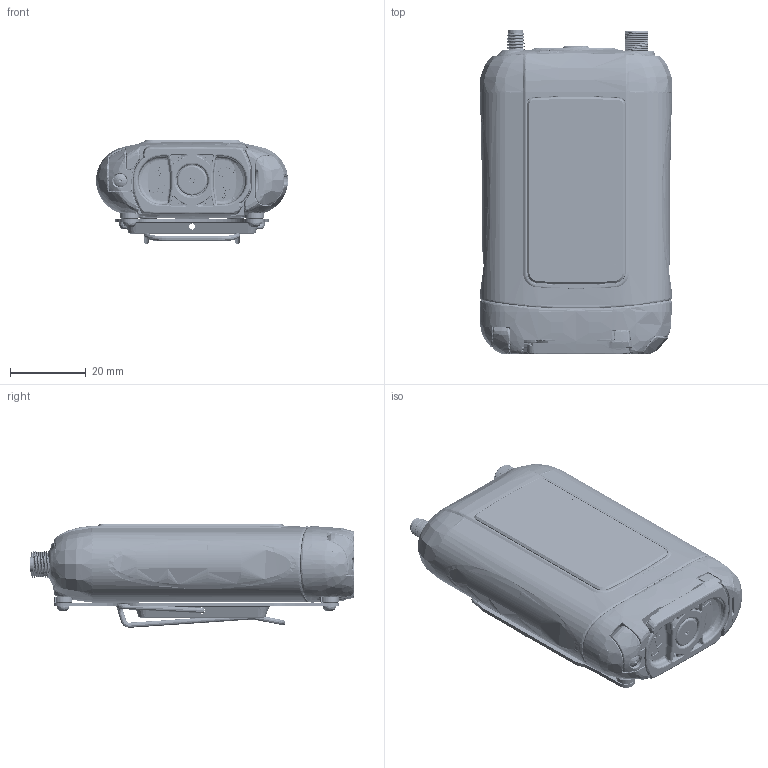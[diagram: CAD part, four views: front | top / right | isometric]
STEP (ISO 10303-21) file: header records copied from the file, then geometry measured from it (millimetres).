
FILE_DESCRIPTION(/* description */ ('A20-Mini-II - Assy'),/* implementation_level */ '2;1');
FILE_NAME(/* name */ 'Astral_MiniPlus_Shareable_3D.stp',/* time_stamp */ '2026-10-01T09:03:16-05:00',/* author */ ('jason'),/* organization */ (''),/* preprocessor_version */ 'ST-DEVELOPER v20.1',/* originating_system */ 'Autodesk Inventor 2026',/* authorisation */ '');
FILE_SCHEMA (('AUTOMOTIVE_DESIGN { 1 0 10303 214 3 1 1 }'));
Products named in the file (43): 33687.xxx - A20-Mini-II - ASSY backup; 38257.005; 38257.005_1; 38257.005 insert M1.2; 38257.005 insert M1.6; 38257.005 insert M2.0; 38258.005; 38258.005_1; 38258.005 insert M1.4; 38258.005 insert M2.0; 38259.004; 38790.002; 39704.003; 39951.002; 40212.000; 38262.003; 38263.005; 38489.001; 38792.002; 39703.001; 40540.001; 39090.001; 11032; 38410.003; 38448.001; 38458.000; 38783.002; 38783.003; 39923.004; 39923.005; 39924.003; 40982.000; 38794.000; 38355.000 - Display 1.1in; 38797.007; 39851.001; 39089.001; 39946.000; 39886.001; 40750.006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
Assembly tree (59 placements, depth 3):
  33687.xxx - A20-Mini-II - ASSY backup
    38257.005
      38257.005_1
      38257.005 insert M1.2  x2
      38257.005 insert M1.6  x2
      38257.005 insert M2.0  x2
    38258.005
      38258.005_1
      38258.005 insert M1.4  x2
      38258.005 insert M2.0  x2
    38259.004
    38790.002
    39704.003
    39951.002
    40212.000
      38262.003
      38263.005
      38489.001  x2
      38792.002
      39703.001
      40540.001
    39090.001
    11032
    38410.003
    38448.001
    38458.000
    38783.002  x2
    38783.003  x2
    39923.004
    39923.005
    39924.003
    40982.000  x2
    38794.000  x2
    38355.000 - Display 1.1in
    38797.007
    39851.001
    39089.001
    39946.000  x2
    39886.001
      40750.006
      40749.008
      40832.001  x4
      40851.001  x4
Bounding box: 50.81 x 85.9 x 27.42 mm (x, y, z)
Volume: 34654.3 mm3; surface area: 66100.7 mm2
Topology: 174 solids, 175 shells, 10355 faces, 27158 edges, 17150 vertices
Faces by surface type: plane 3640, bspline 2878, cylinder 2468, cone 673, torus 458, sphere 238
Full cylindrical faces by diameter (mm): 0.47 x6, 0.5 x11, 0.7 x2, 0.8 x6, 0.864 x1, 0.889 x2, 0.9 x3, 0.929 x2, 0.95 x1, 0.97 x1, 1 x4, 1.067 x4, 1.183 x2, 1.2 x4, 1.221 x2, 1.239 x2, 1.299 x2, 1.4 x13, 1.48 x24, 1.499 x2, 1.567 x4, 1.6 x2, 1.626 x2, 1.651 x2, 1.7 x4, 1.8 x1, 1.829 x2, 1.981 x2, 2 x20, 2.013 x1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
Entity records: 453136 total; most frequent: CARTESIAN_POINT 220196, ORIENTED_EDGE 52550, DIRECTION 40629, EDGE_CURVE 26275, VERTEX_POINT 16671, AXIS2_PLACEMENT_3D 14926, LINE 10777, VECTOR 10777
